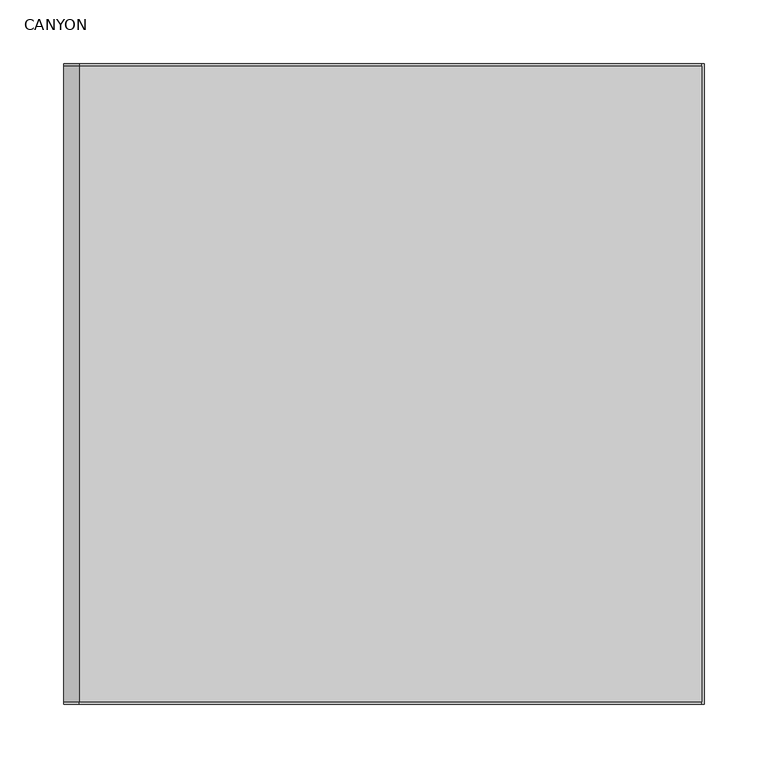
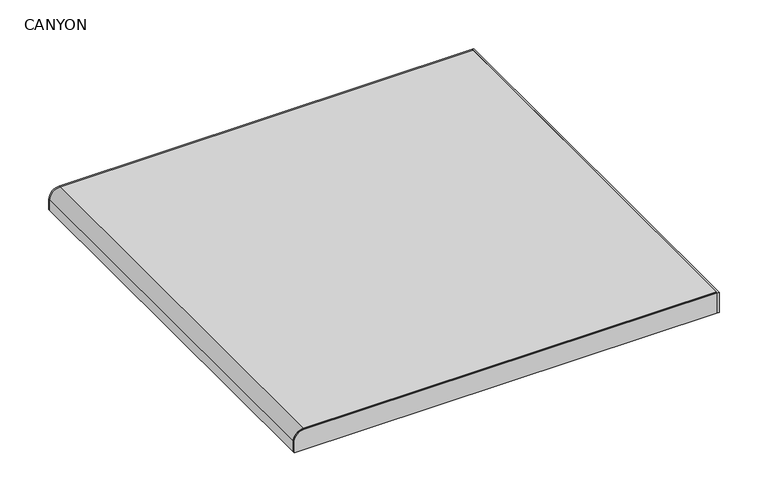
"""IFC4 building model written with IfcOpenShell, lengths in millimetres: proxy geometry, BORDA BLOCKLINE STEP CANYON 50X50 EXT BOLD : CANYON."""

from ifc_helpers import new_model, si_unit, point, frame, frame_2d, origin, place, context, project, spatial, polyline, circle_curve, trimmed, segment, composite_curve, outline, extrude, source, transform, mapped, element, save


def canyon_243530b5(model_context):
    return source(origin(), model_context, "Body", "SweptSolid", [
        extrude(outline(composite_curve([segment(polyline([(-25.0, 258.0000153), (0.0, 258.0000153), (0.0, -229.9746012)]), True, "CONTINUOUS"), segment(trimmed(circle_curve(frame_2d((-12.0253988, -229.9746012)), 12.0253988), [point((0.0, -229.9746012))], [point((-12.0253988, -242.0))], False, "CARTESIAN"), True, "CONTINUOUS"), segment(polyline([(-12.0253988, -242.0), (-24.9999835, -242.0), (-25.0, 258.0000153)]), True, "CONTINUOUS")], self_intersect=False)), frame((0.0, -249.0, 0.0), z_axis=(0.0, 1.0, 0.0), x_axis=(0.0, 0.0, 1.0)), (0.0, 0.0, 1.0), 498.0),
        extrude(outline(polyline([(260.0000153, 251.0), (260.0000153, -251.0), (258.0000153, -251.0), (258.0000153, 251.0), (260.0000153, 251.0)])), frame((0.0, 0.0, -25.0), z_axis=(0.0, 0.0, 1.0), x_axis=(1.0, 0.0, 0.0)), (0.0, 0.0, 1.0), 25.0),
        extrude(outline(composite_curve([segment(polyline([(-25.0, 258.0000153), (0.0, 258.0000153), (0.0, -229.9746012)]), True, "CONTINUOUS"), segment(trimmed(circle_curve(frame_2d((-12.0253988, -229.9746012)), 12.0253988), [point((0.0, -229.9746012))], [point((-12.0253988, -242.0))], False, "CARTESIAN"), True, "CONTINUOUS"), segment(polyline([(-12.0253988, -242.0), (-24.9999835, -242.0), (-25.0, 258.0000153)]), True, "CONTINUOUS")], self_intersect=False)), frame((0.0, -251.0, 0.0), z_axis=(0.0, 1.0, 0.0), x_axis=(0.0, 0.0, 1.0)), (0.0, 0.0, 1.0), 2.0),
        extrude(outline(composite_curve([segment(polyline([(-24.9999835, -242.0), (-25.0, 258.0000153), (0.0, 258.0000153), (0.0, -229.9746012)]), True, "CONTINUOUS"), segment(trimmed(circle_curve(frame_2d((-12.0253988, -229.9746012)), 12.0253988), [point((0.0, -229.9746012))], [point((-12.0253988, -242.0))], False, "CARTESIAN"), True, "CONTINUOUS"), segment(polyline([(-12.0253988, -242.0), (-24.9999835, -242.0)]), True, "CONTINUOUS")], self_intersect=False)), frame((0.0, 249.0, 0.0), z_axis=(0.0, 1.0, 0.0), x_axis=(0.0, 0.0, 1.0)), (0.0, 0.0, 1.0), 2.0),
    ])


if __name__ == "__main__":
    model = new_model("IFC4")
    model_context = context("Model", 3, world=origin())
    ifc_project = project(units=[si_unit("LENGTHUNIT", "METRE", prefix="MILLI")], contexts=[model_context])
    site = spatial("IfcSite", under=ifc_project)
    building = spatial("IfcBuilding", under=site)
    placement = place(None, origin())
    canyon_shape = canyon_243530b5(model_context)
    element("IfcBuildingElementProxy", 1, Name="BORDA BLOCKLINE STEP CANYON 50X50 EXT BOLD : CANYON", ObjectType="BORDA BLOCKLINE STEP CANYON 50X50 EXT BOLD : CANYON", at=placement, inside=building, context=model_context, shape_type="MappedRepresentation", body=[
        mapped(canyon_shape, transform((0.0, 0.0, 0.0), x_axis=(1.0, 0.0, 0.0), y_axis=(0.0, 1.0, 0.0), z_axis=(0.0, 0.0, 1.0))),
    ])
    save(model, "model.ifc")
